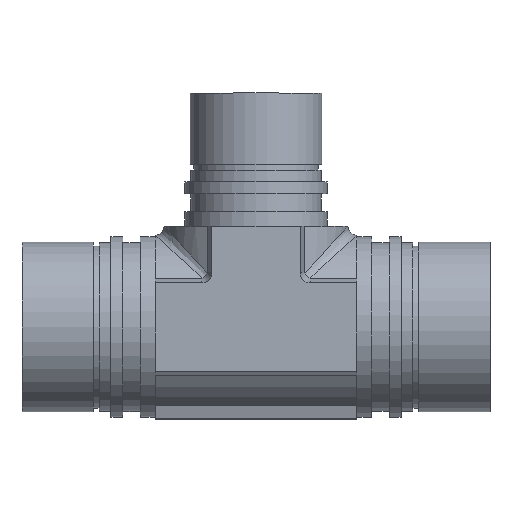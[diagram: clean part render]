
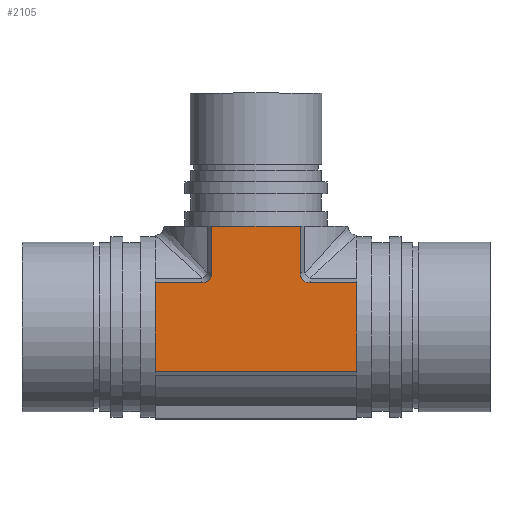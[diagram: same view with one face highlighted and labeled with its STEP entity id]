
A CAD part, top view. The second image highlights one B-rep face of the part: STEP entity #2105.
In plain terms, the highlighted planar face has unit normal (0, 0, 1).
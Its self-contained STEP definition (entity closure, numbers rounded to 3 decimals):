
#19 =( BOUNDED_CURVE ( )  B_SPLINE_CURVE ( 3, ( #624, #625, #626, #627 ),
 .UNSPECIFIED., .F., .F. ) 
 B_SPLINE_CURVE_WITH_KNOTS ( ( 4, 4 ),
 ( 2.39, 3.893 ),
 .UNSPECIFIED. ) 
 CURVE ( )  GEOMETRIC_REPRESENTATION_ITEM ( )  RATIONAL_B_SPLINE_CURVE ( ( 1., 0.82, 0.82, 1. ) ) 
 REPRESENTATION_ITEM ( '' )  );
#20 =( BOUNDED_CURVE ( )  B_SPLINE_CURVE ( 3, ( #646, #647, #648, #649 ),
 .UNSPECIFIED., .F., .F. ) 
 B_SPLINE_CURVE_WITH_KNOTS ( ( 4, 4 ),
 ( 5.531, 7.035 ),
 .UNSPECIFIED. ) 
 CURVE ( )  GEOMETRIC_REPRESENTATION_ITEM ( )  RATIONAL_B_SPLINE_CURVE ( ( 1., 0.82, 0.82, 1. ) ) 
 REPRESENTATION_ITEM ( '' )  );
#90 = ORIENTED_EDGE ( 'NONE', *, *, #2017, .F. ) ;
#91 = ORIENTED_EDGE ( 'NONE', *, *, #2065, .F. ) ;
#92 = ORIENTED_EDGE ( 'NONE', *, *, #2029, .F. ) ;
#93 = ORIENTED_EDGE ( 'NONE', *, *, #2020, .T. ) ;
#94 = ORIENTED_EDGE ( 'NONE', *, *, #2014, .T. ) ;
#95 = ORIENTED_EDGE ( 'NONE', *, *, #2013, .T. ) ;
#96 = ORIENTED_EDGE ( 'NONE', *, *, #2010, .F. ) ;
#97 = ORIENTED_EDGE ( 'NONE', *, *, #2044, .T. ) ;
#98 = ORIENTED_EDGE ( 'NONE', *, *, #2064, .T. ) ;
#99 = ORIENTED_EDGE ( 'NONE', *, *, #2066, .F. ) ;
#246 = EDGE_LOOP ( 'NONE', ( #91, #93, #90, #92, #94, #95, #96, #97, #98, #99 ) ) ;
#275 = VERTEX_POINT ( 'NONE', #443 ) ;
#277 = VERTEX_POINT ( 'NONE', #445 ) ;
#288 = VERTEX_POINT ( 'NONE', #456 ) ;
#291 = VERTEX_POINT ( 'NONE', #459 ) ;
#308 = VERTEX_POINT ( 'NONE', #476 ) ;
#309 = VERTEX_POINT ( 'NONE', #477 ) ;
#312 = VERTEX_POINT ( 'NONE', #480 ) ;
#313 = VERTEX_POINT ( 'NONE', #481 ) ;
#319 = VERTEX_POINT ( 'NONE', #487 ) ;
#329 = VERTEX_POINT ( 'NONE', #497 ) ;
#443 = CARTESIAN_POINT ( 'NONE',  ( 8.949, 7.5, 15.5 ) ) ;
#445 = CARTESIAN_POINT ( 'NONE',  ( -8.949, 7.5, 15.5 ) ) ;
#456 = CARTESIAN_POINT ( 'NONE',  ( -17., -7.5, 15.5 ) ) ;
#459 = CARTESIAN_POINT ( 'NONE',  ( 17., 7.5, 15.5 ) ) ;
#476 = CARTESIAN_POINT ( 'NONE',  ( -7.5, 8.949, 15.5 ) ) ;
#477 = CARTESIAN_POINT ( 'NONE',  ( -7.5, 17., 15.5 ) ) ;
#480 = CARTESIAN_POINT ( 'NONE',  ( 7.5, 17., 15.5 ) ) ;
#481 = CARTESIAN_POINT ( 'NONE',  ( -17., 7.5, 15.5 ) ) ;
#487 = CARTESIAN_POINT ( 'NONE',  ( 7.5, 8.949, 15.5 ) ) ;
#497 = CARTESIAN_POINT ( 'NONE',  ( 17., -7.5, 15.5 ) ) ;
#615 = LINE ( 'NONE', #616, #1784 ) ;
#616 = CARTESIAN_POINT ( 'NONE',  ( -17., 7.5, 15.5 ) ) ;
#617 = DIRECTION ( 'NONE',  ( 1., 0., 0. ) ) ;
#624 = CARTESIAN_POINT ( 'NONE',  ( -7.5, 8.949, 15.5 ) ) ;
#625 = CARTESIAN_POINT ( 'NONE',  ( -7.5, 8.089, 15.5 ) ) ;
#626 = CARTESIAN_POINT ( 'NONE',  ( -8.089, 7.5, 15.5 ) ) ;
#627 = CARTESIAN_POINT ( 'NONE',  ( -8.949, 7.5, 15.5 ) ) ;
#628 = LINE ( 'NONE', #629, #1787 ) ;
#629 = CARTESIAN_POINT ( 'NONE',  ( -7.5, 17., 15.5 ) ) ;
#630 = DIRECTION ( 'NONE',  ( 0., -1., 0. ) ) ;
#637 = LINE ( 'NONE', #638, #1790 ) ;
#638 = CARTESIAN_POINT ( 'NONE',  ( 7.5, 17., 15.5 ) ) ;
#639 = DIRECTION ( 'NONE',  ( 0., -1., 0. ) ) ;
#646 = CARTESIAN_POINT ( 'NONE',  ( 8.949, 7.5, 15.5 ) ) ;
#647 = CARTESIAN_POINT ( 'NONE',  ( 8.089, 7.5, 15.5 ) ) ;
#648 = CARTESIAN_POINT ( 'NONE',  ( 7.5, 8.089, 15.5 ) ) ;
#649 = CARTESIAN_POINT ( 'NONE',  ( 7.5, 8.949, 15.5 ) ) ;
#687 = LINE ( 'NONE', #688, #1796 ) ;
#688 = CARTESIAN_POINT ( 'NONE',  ( 0., 17., 15.5 ) ) ;
#689 = DIRECTION ( 'NONE',  ( 1., 0., 0. ) ) ;
#734 = LINE ( 'NONE', #735, #1811 ) ;
#735 = CARTESIAN_POINT ( 'NONE',  ( -17., 0., 15.5 ) ) ;
#736 = DIRECTION ( 'NONE',  ( 0., -1., 0. ) ) ;
#798 = LINE ( 'NONE', #799, #1831 ) ;
#799 = CARTESIAN_POINT ( 'NONE',  ( -17., -7.5, 15.5 ) ) ;
#800 = DIRECTION ( 'NONE',  ( 1., 0., 0. ) ) ;
#801 = LINE ( 'NONE', #802, #1832 ) ;
#802 = CARTESIAN_POINT ( 'NONE',  ( -17., 7.5, 15.5 ) ) ;
#803 = DIRECTION ( 'NONE',  ( 1., 0., 0. ) ) ;
#804 = LINE ( 'NONE', #805, #1833 ) ;
#805 = CARTESIAN_POINT ( 'NONE',  ( 17., 0., 15.5 ) ) ;
#806 = DIRECTION ( 'NONE',  ( 0., -1., 0. ) ) ;
#930 = PLANE ( 'NONE',  #1886 ) ;
#931 = CARTESIAN_POINT ( 'NONE',  ( -17., 0., 15.5 ) ) ;
#932 = DIRECTION ( 'NONE',  ( 0., 0., 1. ) ) ;
#933 = DIRECTION ( 'NONE',  ( 1., 0., 0. ) ) ;
#1784 = VECTOR ( 'NONE', #617, 1000. ) ;
#1787 = VECTOR ( 'NONE', #630, 1000. ) ;
#1790 = VECTOR ( 'NONE', #639, 1000. ) ;
#1796 = VECTOR ( 'NONE', #689, 1000. ) ;
#1811 = VECTOR ( 'NONE', #736, 1000. ) ;
#1831 = VECTOR ( 'NONE', #800, 1000. ) ;
#1832 = VECTOR ( 'NONE', #803, 1000. ) ;
#1833 = VECTOR ( 'NONE', #806, 1000. ) ;
#1883 = FACE_OUTER_BOUND ( 'NONE', #246, .T. ) ;
#1886 = AXIS2_PLACEMENT_3D ( 'NONE', #931, #932, #933 ) ;
#2010 = EDGE_CURVE ( 'NONE', #313, #277, #615, .T. ) ;
#2013 = EDGE_CURVE ( 'NONE', #308, #277, #19, .T. ) ;
#2014 = EDGE_CURVE ( 'NONE', #309, #308, #628, .T. ) ;
#2017 = EDGE_CURVE ( 'NONE', #312, #319, #637, .T. ) ;
#2020 = EDGE_CURVE ( 'NONE', #275, #319, #20, .T. ) ;
#2029 = EDGE_CURVE ( 'NONE', #309, #312, #687, .T. ) ;
#2044 = EDGE_CURVE ( 'NONE', #313, #288, #734, .T. ) ;
#2064 = EDGE_CURVE ( 'NONE', #288, #329, #798, .T. ) ;
#2065 = EDGE_CURVE ( 'NONE', #275, #291, #801, .T. ) ;
#2066 = EDGE_CURVE ( 'NONE', #291, #329, #804, .T. ) ;
#2105 = ADVANCED_FACE ( 'NONE', ( #1883 ), #930, .T. ) ;
